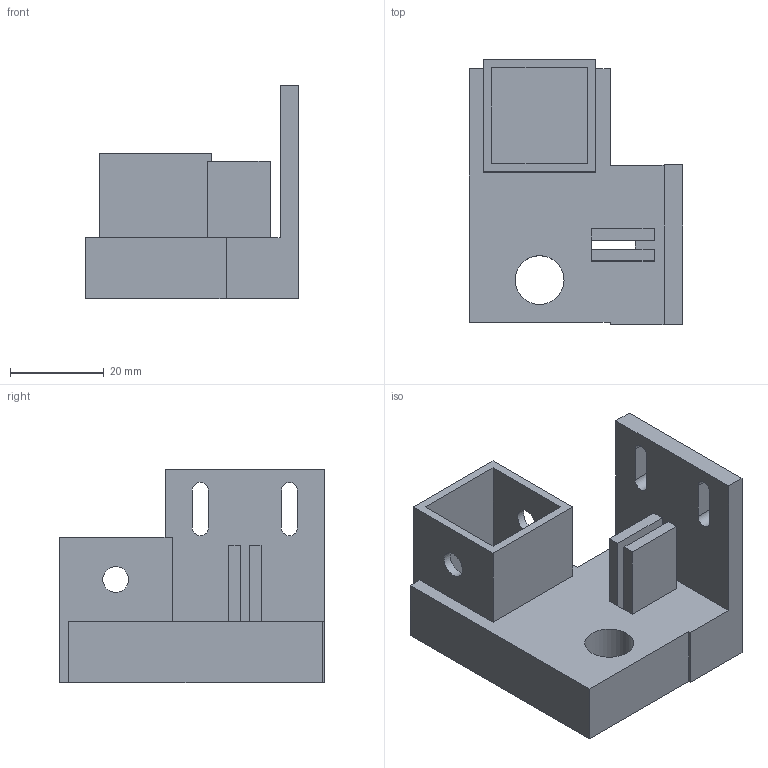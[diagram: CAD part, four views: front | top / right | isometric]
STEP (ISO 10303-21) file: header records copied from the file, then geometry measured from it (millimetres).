
FILE_DESCRIPTION(('Open CASCADE Model'),'2;1');
FILE_NAME('Open CASCADE Shape Model','2026-10-23T08:22:12',('Author'),( 'Open CASCADE'),'Open CASCADE STEP processor 7.9','Open CASCADE 7.9' ,'Unknown');
FILE_SCHEMA(('AUTOMOTIVE_DESIGN { 1 0 10303 214 1 1 1 1 }'));
Length unit declared in the file: millimetre
Products named in the file (1): Open CASCADE STEP translator 7.9 11
Bounding box: 45.5 x 56.5 x 45.5 mm (x, y, z)
Volume: 31047 mm3; surface area: 15106.7 mm2
Topology: 1 solids, 1 shells, 46 faces, 127 edges, 84 vertices
Faces by surface type: plane 39, cylinder 7
Full cylindrical faces by diameter (mm): 5.5 x2, 10.4 x1
Entity records: 3140 total; most frequent: CARTESIAN_POINT 524, DIRECTION 487, LINE 353, VECTOR 353, ORIENTED_EDGE 254, PCURVE 254, DEFINITIONAL_REPRESENTATION 254, EDGE_CURVE 127
